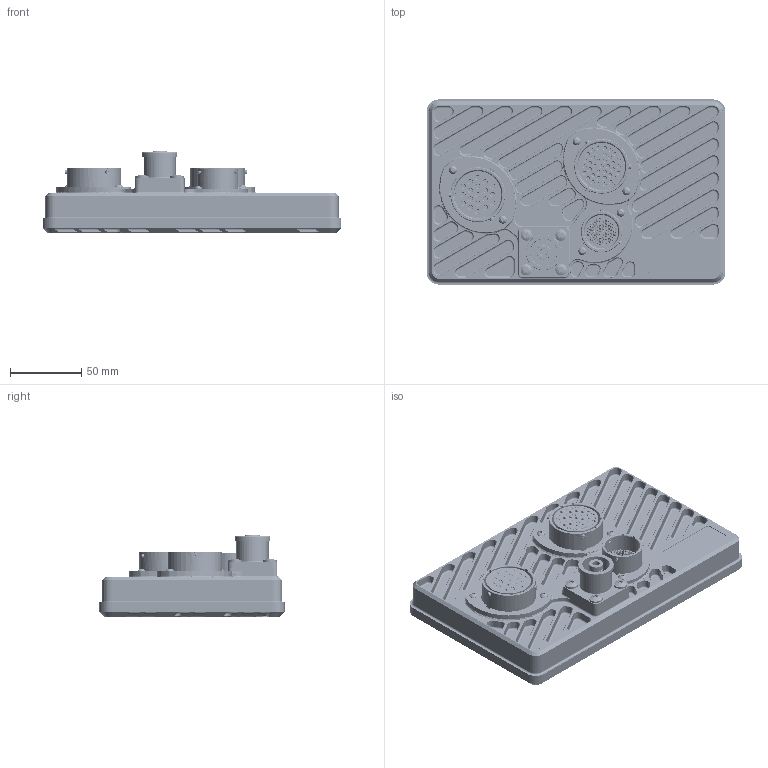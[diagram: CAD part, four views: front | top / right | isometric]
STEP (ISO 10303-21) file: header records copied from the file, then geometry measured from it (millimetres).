
FILE_DESCRIPTION(('CATIA V5 STEP Exchange'),'2;1');
FILE_NAME('T:\PDUX3-4BAS\251124_sent_to_AA\PDUX3-4BAS M10 - Customer Data\PDUX3-4BAS M10 Assembly.stp','2025-11-24T11:29:05+00:00',('none'),('none'),'CATIA Version 5 Release 19 SP 9 (IN-10)','CATIA V5 STEP AP214','none');
FILE_SCHEMA(('AUTOMOTIVE_DESIGN { 1 0 10303 214 1 1 1 1 }'));
Products named in the file (1): PDUX3-4BAS M10 Assembly
Bounding box: 209.91 x 130 x 57.15 mm (x, y, z)
Volume: 89548.9 mm3; surface area: 149546.2 mm2
Topology: 37 solids, 257 shells, 6384 faces, 17642 edges, 11896 vertices
Faces by surface type: cylinder 2496, cone 1316, plane 1288, torus 956, sphere 316, revolution 12
Entity records: 198691 total; most frequent: CARTESIAN_POINT 51488, ORIENTED_EDGE 31505, DIRECTION 24889, EDGE_CURVE 15906, AXIS2_PLACEMENT_3D 14119, VERTEX_POINT 10368, CIRCLE 8376, EDGE_LOOP 7218
